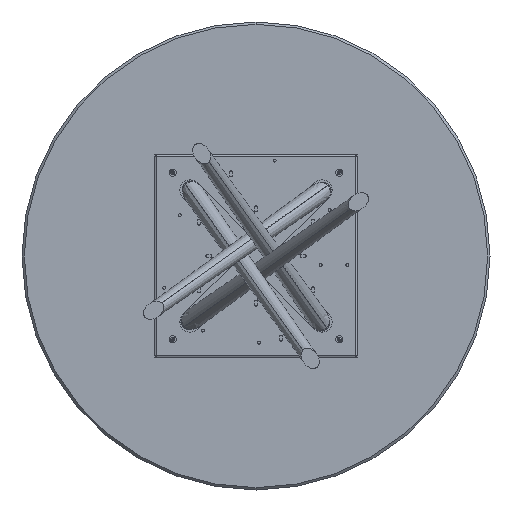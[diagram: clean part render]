
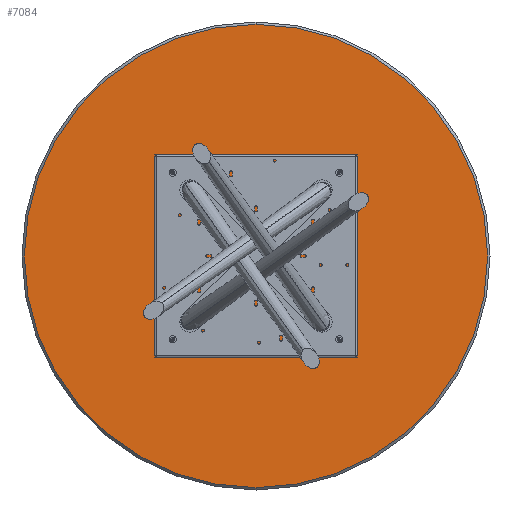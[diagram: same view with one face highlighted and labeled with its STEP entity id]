
A CAD part, front view. The second image highlights one B-rep face of the part: STEP entity #7084.
In plain terms, the highlighted planar face has unit normal (0, -1, 0).
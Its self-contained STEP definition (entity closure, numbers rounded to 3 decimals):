
#218 = CARTESIAN_POINT ( 'NONE',  ( 0., 0., 782. ) ) ;
#1323 = DIRECTION ( 'NONE',  ( 0., -1., 0. ) ) ;
#4635 = DIRECTION ( 'NONE',  ( 0., -1., 0. ) ) ;
#5427 = FACE_OUTER_BOUND ( 'NONE', #6792, .T. ) ;
#6482 = DIRECTION ( 'NONE',  ( 0., 0., -1. ) ) ;
#6709 = DIRECTION ( 'NONE',  ( 0., 0., -1. ) ) ;
#6792 = EDGE_LOOP ( 'NONE', ( #11355, #10463 ) ) ;
#7084 = ADVANCED_FACE ( 'NONE', ( #5427 ), #13703, .T. ) ;
#7377 = EDGE_CURVE ( 'NONE', #15447, #13867, #16480, .T. ) ;
#10463 = ORIENTED_EDGE ( 'NONE', *, *, #7377, .T. ) ;
#10597 = CARTESIAN_POINT ( 'NONE',  ( 0., 0., 0. ) ) ;
#10827 = AXIS2_PLACEMENT_3D ( 'NONE', #10597, #4635, #6709 ) ;
#11355 = ORIENTED_EDGE ( 'NONE', *, *, #16651, .T. ) ;
#11837 = DIRECTION ( 'NONE',  ( 0., -1., 0. ) ) ;
#11931 = AXIS2_PLACEMENT_3D ( 'NONE', #12938, #1323, #6482 ) ;
#12170 = DIRECTION ( 'NONE',  ( 0., 0., -1. ) ) ;
#12566 = CARTESIAN_POINT ( 'NONE',  ( 0., 0., -782. ) ) ;
#12600 = AXIS2_PLACEMENT_3D ( 'NONE', #13353, #11837, #12170 ) ;
#12938 = CARTESIAN_POINT ( 'NONE',  ( 0., 0., 0. ) ) ;
#13353 = CARTESIAN_POINT ( 'NONE',  ( 0., 0., 0. ) ) ;
#13703 = PLANE ( 'NONE',  #10827 ) ;
#13867 = VERTEX_POINT ( 'NONE', #218 ) ;
#15447 = VERTEX_POINT ( 'NONE', #12566 ) ;
#15807 = CIRCLE ( 'NONE', #12600, 782. ) ;
#16480 = CIRCLE ( 'NONE', #11931, 782. ) ;
#16651 = EDGE_CURVE ( 'NONE', #13867, #15447, #15807, .T. ) ;
